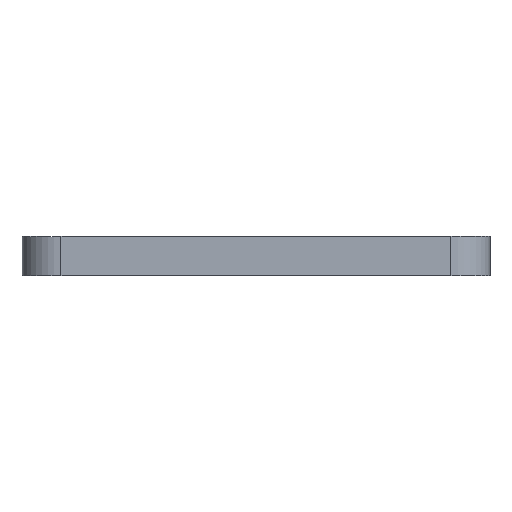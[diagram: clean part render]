
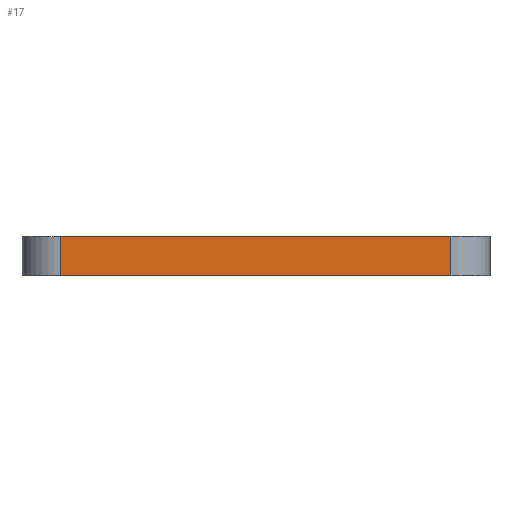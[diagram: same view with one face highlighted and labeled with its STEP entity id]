
A CAD part, left-side view. The second image highlights one B-rep face of the part: STEP entity #17.
In plain terms, the highlighted planar face has unit normal (-1, 0, 0).
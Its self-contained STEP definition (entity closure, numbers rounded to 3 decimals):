
#17 = ADVANCED_FACE('',(#18),#32,.F.);
#18 = FACE_BOUND('',#19,.F.);
#19 = EDGE_LOOP('',(#20,#55,#83,#111));
#20 = ORIENTED_EDGE('',*,*,#21,.F.);
#21 = EDGE_CURVE('',#22,#24,#26,.T.);
#22 = VERTEX_POINT('',#23);
#23 = CARTESIAN_POINT('',(0.,3.,3.));
#24 = VERTEX_POINT('',#25);
#25 = CARTESIAN_POINT('',(0.,33.,3.));
#26 = SURFACE_CURVE('',#27,(#31,#43),.PCURVE_S1.);
#27 = LINE('',#28,#29);
#28 = CARTESIAN_POINT('',(0.,0.,3.));
#29 = VECTOR('',#30,1.);
#30 = DIRECTION('',(0.,1.,0.));
#31 = PCURVE('',#32,#37);
#32 = PLANE('',#33);
#33 = AXIS2_PLACEMENT_3D('',#34,#35,#36);
#34 = CARTESIAN_POINT('',(0.,0.,0.));
#35 = DIRECTION('',(1.,0.,0.));
#36 = DIRECTION('',(0.,0.,1.));
#37 = DEFINITIONAL_REPRESENTATION('',(#38),#42);
#38 = LINE('',#39,#40);
#39 = CARTESIAN_POINT('',(3.,0.));
#40 = VECTOR('',#41,1.);
#41 = DIRECTION('',(0.,-1.));
#42 = ( GEOMETRIC_REPRESENTATION_CONTEXT(2) 
PARAMETRIC_REPRESENTATION_CONTEXT() REPRESENTATION_CONTEXT('2D SPACE',''
  ) );
#43 = PCURVE('',#44,#49);
#44 = PLANE('',#45);
#45 = AXIS2_PLACEMENT_3D('',#46,#47,#48);
#46 = CARTESIAN_POINT('',(0.,0.,3.));
#47 = DIRECTION('',(0.,0.,1.));
#48 = DIRECTION('',(1.,0.,0.));
#49 = DEFINITIONAL_REPRESENTATION('',(#50),#54);
#50 = LINE('',#51,#52);
#51 = CARTESIAN_POINT('',(0.,0.));
#52 = VECTOR('',#53,1.);
#53 = DIRECTION('',(0.,1.));
#54 = ( GEOMETRIC_REPRESENTATION_CONTEXT(2) 
PARAMETRIC_REPRESENTATION_CONTEXT() REPRESENTATION_CONTEXT('2D SPACE',''
  ) );
#55 = ORIENTED_EDGE('',*,*,#56,.F.);
#56 = EDGE_CURVE('',#57,#22,#59,.T.);
#57 = VERTEX_POINT('',#58);
#58 = CARTESIAN_POINT('',(0.,3.,0.));
#59 = SURFACE_CURVE('',#60,(#64,#71),.PCURVE_S1.);
#60 = LINE('',#61,#62);
#61 = CARTESIAN_POINT('',(0.,3.,0.));
#62 = VECTOR('',#63,1.);
#63 = DIRECTION('',(0.,0.,1.));
#64 = PCURVE('',#32,#65);
#65 = DEFINITIONAL_REPRESENTATION('',(#66),#70);
#66 = LINE('',#67,#68);
#67 = CARTESIAN_POINT('',(0.,-3.));
#68 = VECTOR('',#69,1.);
#69 = DIRECTION('',(1.,0.));
#70 = ( GEOMETRIC_REPRESENTATION_CONTEXT(2) 
PARAMETRIC_REPRESENTATION_CONTEXT() REPRESENTATION_CONTEXT('2D SPACE',''
  ) );
#71 = PCURVE('',#72,#77);
#72 = CYLINDRICAL_SURFACE('',#73,3.);
#73 = AXIS2_PLACEMENT_3D('',#74,#75,#76);
#74 = CARTESIAN_POINT('',(3.,3.,0.));
#75 = DIRECTION('',(0.,0.,1.));
#76 = DIRECTION('',(-1.,-0.,0.));
#77 = DEFINITIONAL_REPRESENTATION('',(#78),#82);
#78 = LINE('',#79,#80);
#79 = CARTESIAN_POINT('',(0.,0.));
#80 = VECTOR('',#81,1.);
#81 = DIRECTION('',(0.,1.));
#82 = ( GEOMETRIC_REPRESENTATION_CONTEXT(2) 
PARAMETRIC_REPRESENTATION_CONTEXT() REPRESENTATION_CONTEXT('2D SPACE',''
  ) );
#83 = ORIENTED_EDGE('',*,*,#84,.T.);
#84 = EDGE_CURVE('',#57,#85,#87,.T.);
#85 = VERTEX_POINT('',#86);
#86 = CARTESIAN_POINT('',(0.,33.,0.));
#87 = SURFACE_CURVE('',#88,(#92,#99),.PCURVE_S1.);
#88 = LINE('',#89,#90);
#89 = CARTESIAN_POINT('',(0.,0.,0.));
#90 = VECTOR('',#91,1.);
#91 = DIRECTION('',(0.,1.,0.));
#92 = PCURVE('',#32,#93);
#93 = DEFINITIONAL_REPRESENTATION('',(#94),#98);
#94 = LINE('',#95,#96);
#95 = CARTESIAN_POINT('',(0.,0.));
#96 = VECTOR('',#97,1.);
#97 = DIRECTION('',(0.,-1.));
#98 = ( GEOMETRIC_REPRESENTATION_CONTEXT(2) 
PARAMETRIC_REPRESENTATION_CONTEXT() REPRESENTATION_CONTEXT('2D SPACE',''
  ) );
#99 = PCURVE('',#100,#105);
#100 = PLANE('',#101);
#101 = AXIS2_PLACEMENT_3D('',#102,#103,#104);
#102 = CARTESIAN_POINT('',(0.,0.,0.));
#103 = DIRECTION('',(0.,0.,1.));
#104 = DIRECTION('',(1.,0.,0.));
#105 = DEFINITIONAL_REPRESENTATION('',(#106),#110);
#106 = LINE('',#107,#108);
#107 = CARTESIAN_POINT('',(0.,0.));
#108 = VECTOR('',#109,1.);
#109 = DIRECTION('',(0.,1.));
#110 = ( GEOMETRIC_REPRESENTATION_CONTEXT(2) 
PARAMETRIC_REPRESENTATION_CONTEXT() REPRESENTATION_CONTEXT('2D SPACE',''
  ) );
#111 = ORIENTED_EDGE('',*,*,#112,.T.);
#112 = EDGE_CURVE('',#85,#24,#113,.T.);
#113 = SURFACE_CURVE('',#114,(#118,#125),.PCURVE_S1.);
#114 = LINE('',#115,#116);
#115 = CARTESIAN_POINT('',(0.,33.,0.));
#116 = VECTOR('',#117,1.);
#117 = DIRECTION('',(0.,0.,1.));
#118 = PCURVE('',#32,#119);
#119 = DEFINITIONAL_REPRESENTATION('',(#120),#124);
#120 = LINE('',#121,#122);
#121 = CARTESIAN_POINT('',(0.,-33.));
#122 = VECTOR('',#123,1.);
#123 = DIRECTION('',(1.,0.));
#124 = ( GEOMETRIC_REPRESENTATION_CONTEXT(2) 
PARAMETRIC_REPRESENTATION_CONTEXT() REPRESENTATION_CONTEXT('2D SPACE',''
  ) );
#125 = PCURVE('',#126,#131);
#126 = CYLINDRICAL_SURFACE('',#127,3.);
#127 = AXIS2_PLACEMENT_3D('',#128,#129,#130);
#128 = CARTESIAN_POINT('',(3.,33.,0.));
#129 = DIRECTION('',(0.,0.,1.));
#130 = DIRECTION('',(-1.,-0.,0.));
#131 = DEFINITIONAL_REPRESENTATION('',(#132),#136);
#132 = LINE('',#133,#134);
#133 = CARTESIAN_POINT('',(-0.,0.));
#134 = VECTOR('',#135,1.);
#135 = DIRECTION('',(-0.,1.));
#136 = ( GEOMETRIC_REPRESENTATION_CONTEXT(2) 
PARAMETRIC_REPRESENTATION_CONTEXT() REPRESENTATION_CONTEXT('2D SPACE',''
  ) );
